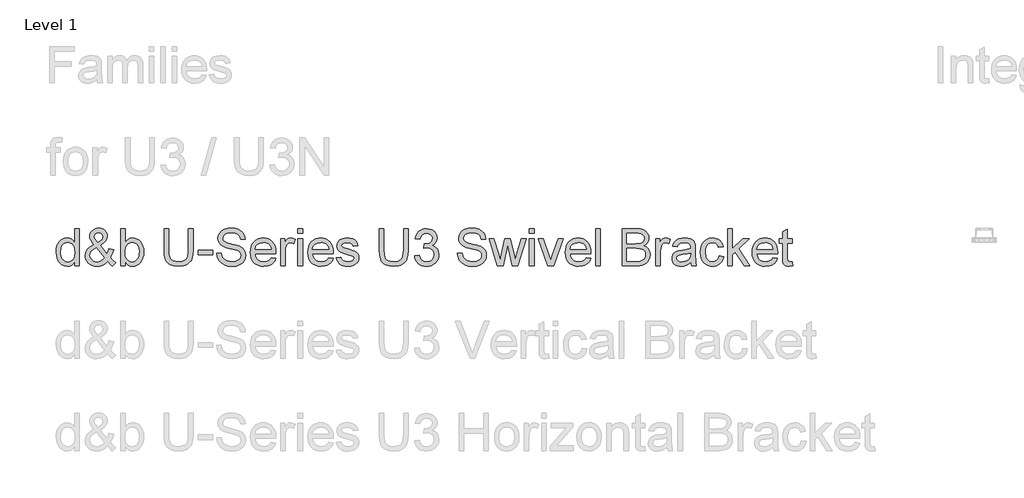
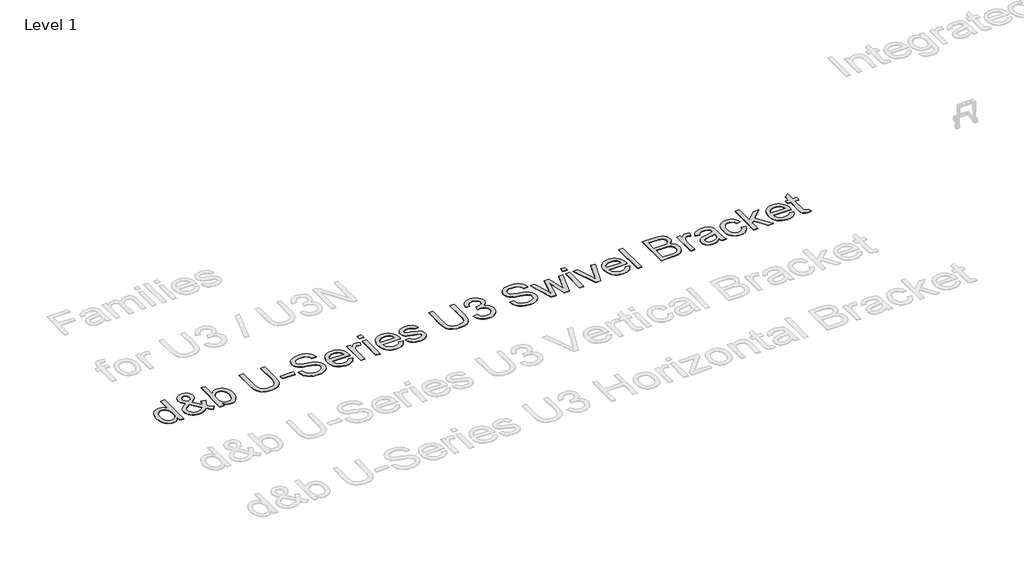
# One storey, part 17 of 29: 1 proxy.
"""IFC4 building model written with IfcOpenShell, lengths in millimetres."""

from ifc_helpers import new_model, si_unit, origin, origin_with_axes, place, context, project, spatial, polyline, outline, extrude, element, save

model = new_model("IFC4")

# Units and contexts
model_context = context("Model", 3, world=origin())
ifc_project = project(units=[si_unit("LENGTHUNIT", "METRE", prefix="MILLI")], contexts=[model_context])

# Site, building, storey
site = spatial("IfcSite", under=ifc_project)
building = spatial("IfcBuilding", under=site)
storey = spatial("IfcBuildingStorey", under=building, Name="Level 1", Elevation=0.0)

# Proxy
placement = place(None, origin())
element("IfcBuildingElementProxy", 1, Name="400mm Arial", ObjectType="400mm Arial", at=placement, inside=storey, context=model_context, shape_type="SweptSolid", body=[
    extrude(outline(polyline([(-20788.4119982, 4164.3636615), (-20788.4119982, 4211.7468625), (-20803.4399777, 4188.2698598), (-20821.6440051, 4171.5005722), (-20843.0240804, 4161.4389996), (-20867.5802036, 4158.0851421), (-20900.051921, 4162.9411844), (-20929.7767862, 4177.5093115), (-20954.9399147, 4200.7717163), (-20973.7264219, 4231.7105921), (-20985.4250694, 4269.0751401), (-20989.3246185, 4311.6145614), (-20985.7316377, 4353.6266853), (-20974.9526952, 4391.5675817), (-20957.0000539, 4423.2790097), (-20931.8859763, 4446.6027282), (-20901.5111863, 4460.950126), (-20867.7764073, 4465.7325919), (-20843.20189, 4462.3112894), (-20821.4723268, 4452.0473817), (-20803.0537016, 4436.3142951), (-20788.4119982, 4416.4854555), (-20788.4119982, 4566.1889021), (-20738.1838431, 4566.1889021), (-20738.1838431, 4164.3636615), (-20788.4119982, 4164.3636615)]), holes=[polyline([(-20939.0964634, 4311.8107652), (-20937.6801177, 4287.4539114), (-20933.4310807, 4266.3773388), (-20926.3493523, 4248.5810472), (-20916.4349325, 4234.0650368), (-20891.7377879, 4214.7512321), (-20877.8625053, 4209.9227809), (-20862.9694159, 4208.3132972), (-20848.0058157, 4209.8492045), (-20834.2133066, 4214.4569265), (-20810.1415614, 4232.8878145), (-20800.6348775, 4246.7968196), (-20793.844389, 4263.9493176), (-20788.4119982, 4307.9847924), (-20793.9424909, 4356.1282828), (-20800.8556067, 4374.663404), (-20810.5339688, 4389.5074425), (-20822.235682, 4400.8811276), (-20835.2188507, 4409.0051883), (-20849.4834751, 4413.8796247), (-20865.0295551, 4415.5044369), (-20880.2169501, 4413.9440041), (-20894.0922327, 4409.2627057), (-20906.6554028, 4401.4605417), (-20917.9064605, 4390.5375121), (-20927.1770868, 4376.2544937), (-20933.7989627, 4358.372363), (-20939.0964634, 4311.8107652)])]), origin_with_axes(), (0.0, 0.0, 1.0), 5.0),
    extrude(outline(polyline([(-20432.4003287, 4214.0032054), (-20457.9313392, 4189.5390527), (-20485.6696416, 4172.0646579), (-20515.664287, 4161.5800211), (-20547.9643262, 4158.0851421), (-20577.2722584, 4160.6725788), (-20603.3918801, 4168.4348889), (-20626.3231911, 4181.3720724), (-20646.0661915, 4199.4841293), (-20658.8991418, 4216.8542908), (-20668.0655348, 4235.2177338), (-20673.5653707, 4254.5744581), (-20675.3986493, 4274.9244638), (-20669.5002746, 4310.118508), (-20651.8051507, 4341.7318341), (-20622.3868538, 4369.7399167), (-20581.3189604, 4394.1182302), (-20603.2324646, 4422.4696693), (-20616.3903773, 4444.9349965), (-20622.975465, 4464.1139112), (-20625.1704942, 4482.6061128), (-20623.4414488, 4500.1602153), (-20618.2543127, 4516.5248327), (-20609.6090858, 4531.699965), (-20597.5057682, 4545.6856122), (-20582.784357, 4557.4026538), (-20566.2848495, 4565.7719692), (-20548.0072457, 4570.7935584), (-20527.9515456, 4572.4674215), (-20508.8032878, 4570.8671348), (-20491.4821772, 4566.0662748), (-20475.9882138, 4558.0648414), (-20462.3213977, 4546.8628346), (-20451.1623105, 4533.4167477), (-20443.1915339, 4518.6830738), (-20438.409068, 4502.6618129), (-20436.8149127, 4485.352965), (-20441.5360649, 4457.3694079), (-20455.6995218, 4431.4950409), (-20479.3052831, 4407.729864), (-20512.353349, 4386.0738773), (-20439.6598668, 4295.5258555), (-20427.2745063, 4321.4002225), (-20417.9793545, 4351.1496132), (-20367.7511994, 4340.2603061), (-20383.2022432, 4293.7354965), (-20403.2640747, 4257.5604336), (-20374.7164319, 4224.2548503), (-20342.6371219, 4196.7372771), (-20380.3082382, 4158.0851421), (-20405.9373505, 4181.5314879), (-20432.4003287, 4214.0032054)]), holes=[polyline([(-20537.7617322, 4417.7607798), (-20511.4949577, 4434.4258341), (-20496.4608468, 4448.908122), (-20489.3975125, 4462.9980024), (-20487.0430678, 4478.4858344), (-20490.1455392, 4496.0338056), (-20499.4529537, 4510.0255842), (-20513.4202068, 4519.1858458), (-20530.5021941, 4522.2392664), (-20547.9520634, 4519.2103713), (-20562.2381476, 4510.123686), (-20571.7662912, 4496.6714677), (-20574.9423391, 4480.5459736), (-20570.6258571, 4462.1518739), (-20557.578309, 4441.6976349), (-20537.7617322, 4417.7607798)]), polyline([(-20466.0492686, 4250.2027937), (-20555.7143735, 4362.1370221), (-20589.9641873, 4340.2848316), (-20610.8966728, 4320.0513218), (-20621.6020389, 4300.7252544), (-20625.1704942, 4281.5953906), (-20620.2899264, 4257.9037901), (-20605.648223, 4233.3292729), (-20594.8692805, 4222.3847835), (-20582.0547244, 4214.5672911), (-20567.2045545, 4209.8767957), (-20550.3187709, 4208.3132972), (-20527.5959264, 4211.2318277), (-20504.1618433, 4219.9874192), (-20482.7388484, 4233.3783238), (-20466.0492686, 4250.2027937)])]), origin_with_axes(), (0.0, 0.0, 1.0), 5.0),
    extrude(outline(polyline([(-20242.1808118, 4164.3636615), (-20292.4089668, 4164.3636615), (-20292.4089668, 4566.1889021), (-20242.1808118, 4566.1889021), (-20242.1808118, 4417.1721686), (-20225.6629102, 4438.4173538), (-20207.011293, 4453.5924861), (-20186.2259603, 4462.6975655), (-20163.306912, 4465.7325919), (-20137.432545, 4462.9980024), (-20112.9806551, 4454.7942339), (-20091.3491937, 4441.6363213), (-20073.9361126, 4424.0392992), (-20060.2876906, 4402.1748459), (-20049.9502065, 4376.2146398), (-20043.4386952, 4347.2378013), (-20041.2681915, 4316.323451), (-20043.5153373, 4280.6511602), (-20050.2567749, 4249.270826), (-20061.4925041, 4222.1824484), (-20077.2225251, 4199.3860274), (-20096.1040685, 4181.3168901), (-20116.7943651, 4168.4103634), (-20139.2934148, 4160.6664474), (-20163.6012176, 4158.0851421), (-20187.274424, 4161.4144742), (-20208.2620918, 4171.4024703), (-20226.5642211, 4188.0491306), (-20242.1808118, 4211.354455), (-20242.1808118, 4164.3636615)]), holes=[polyline([(-20242.1808118, 4313.9690062), (-20238.7472465, 4272.0795097), (-20228.4465506, 4243.7280706), (-20216.2757879, 4228.2341072), (-20202.1307252, 4217.1669905), (-20186.0113625, 4210.5267205), (-20167.9176997, 4208.3132972), (-20152.8958515, 4209.9442407), (-20138.9285984, 4214.8370712), (-20126.0159404, 4222.9917888), (-20114.1578774, 4234.4083934), (-20104.2434577, 4249.0562281), (-20097.1617293, 4266.9046363), (-20092.9126922, 4287.9536178), (-20091.4963465, 4312.2031726), (-20096.9287373, 4358.1638965), (-20103.7192258, 4375.9571224), (-20113.2259097, 4390.2922575), (-20124.6578427, 4401.322586), (-20137.2240785, 4409.201392), (-20150.9246172, 4413.9286757), (-20165.7594586, 4415.5044369), (-20180.7813068, 4413.8734934), (-20194.7485599, 4408.9806628), (-20207.6612179, 4400.8259453), (-20219.5192809, 4389.4093407), (-20229.4337006, 4374.9086587), (-20236.515429, 4357.501709), (-20240.7644661, 4337.1884915), (-20242.1808118, 4313.9690062)])]), origin_with_axes(), (0.0, 0.0, 1.0), 5.0),
    extrude(outline(polyline([(-19557.8221989, 4566.1889021), (-19507.5940438, 4566.1889021), (-19507.5940438, 4334.3741942), (-19511.0030836, 4280.0870744), (-19521.2302031, 4238.2834171), (-19529.4155775, 4221.3301884), (-19540.3355414, 4206.0324288), (-19570.3792376, 4180.4033165), (-19589.5213641, 4170.6391152), (-19611.4348683, 4163.6646857), (-19663.5760097, 4158.0851421), (-19714.576717, 4162.9411844), (-19755.3503048, 4177.5093115), (-19771.9049946, 4188.3097137), (-19785.9090359, 4201.2867511), (-19797.3624287, 4216.4404236), (-19806.2651729, 4233.7707312), (-19817.706303, 4277.3402222), (-19821.520013, 4334.3741942), (-19821.520013, 4566.1889021), (-19771.2918579, 4566.1889021), (-19771.2918579, 4336.1400278), (-19768.8147858, 4291.000907), (-19761.3835695, 4259.5715218), (-19747.9190885, 4237.8051705), (-19727.3422222, 4221.6551509), (-19700.5113621, 4211.6487606), (-19668.2848993, 4208.3132972), (-19640.6017791, 4209.9626348), (-19617.1983529, 4214.9106476), (-19598.0746205, 4223.1573357), (-19583.230582, 4234.702699), (-19572.1144144, 4250.9385577), (-19564.1742947, 4273.2567321), (-19559.4102228, 4301.6572221), (-19557.8221989, 4336.1400278), (-19557.8221989, 4566.1889021)])), origin_with_axes(), (0.0, 0.0, 1.0), 5.0),
    extrude(outline(polyline([(-19451.0873693, 4283.6555298), (-19451.0873693, 4333.8836849), (-19294.1243847, 4333.8836849), (-19294.1243847, 4283.6555298), (-19451.0873693, 4283.6555298)])), origin_with_axes(), (0.0, 0.0, 1.0), 5.0),
    extrude(outline(polyline([(-19250.174749, 4302.4910879), (-19199.946594, 4302.4910879), (-19194.1831094, 4274.6178954), (-19183.7597862, 4252.2138819), (-19167.499402, 4234.4329188), (-19144.2247344, 4220.4288776), (-19115.7751935, 4211.3421923), (-19083.9901891, 4208.3132972), (-19056.006632, 4210.6064283), (-19031.5056911, 4217.4858216), (-19011.6523261, 4228.3751287), (-18997.6114966, 4242.698001), (-18989.2605753, 4259.1423262), (-18986.4769349, 4276.3959918), (-18988.5615995, 4293.2081989), (-18994.8155934, 4307.7395377), (-19007.519785, 4320.137161), (-19028.9550426, 4330.5482214), (-19102.0899832, 4349.7271361), (-19150.0985836, 4362.419065), (-19180.8167302, 4374.4978571), (-19205.8204431, 4391.3959034), (-19223.5400926, 4411.8746678), (-19234.0983058, 4435.4926919), (-19237.6177103, 4461.8085173), (-19233.26444, 4491.2268142), (-19220.2046292, 4518.6585483), (-19198.7816343, 4541.9086904), (-19169.338812, 4558.7822113), (-19133.997615, 4569.0461189), (-19094.8794961, 4572.4674215), (-19052.4994903, 4568.8867034), (-19015.4169852, 4558.1445491), (-18984.956356, 4540.4616879), (-18962.4419779, 4516.0588489), (-18948.1926819, 4486.456611), (-18942.5272992, 4453.1755532), (-18992.7554543, 4453.1755532), (-19001.9770296, 4483.145673), (-19010.3402136, 4495.003736), (-19021.2049952, 4504.7771344), (-19051.2486915, 4517.8737334), (-19092.9174588, 4522.2392664), (-19135.5672448, 4517.9227843), (-19151.8705486, 4512.5271817), (-19164.8261262, 4504.9733381), (-19181.7486979, 4485.9170507), (-19187.3895552, 4463.2800453), (-19183.3919042, 4443.9785033), (-19171.3989511, 4428.4538831), (-19143.047512, 4414.5724691), (-19089.3857917, 4400.3967496), (-19034.0072887, 4386.9322686), (-19000.5055016, 4375.1845702), (-18971.8720197, 4356.9621487), (-18951.8960273, 4334.4722961), (-18940.1605917, 4307.9602669), (-18936.2487798, 4277.671316), (-18940.7492029, 4246.7079147), (-18954.2504721, 4217.5839235), (-18976.2007645, 4192.5188969), (-19006.048257, 4173.7323896), (-19041.941277, 4161.996954), (-19082.0281518, 4158.0851421), (-19131.2385, 4162.3035223), (-19171.7423077, 4174.958663), (-19204.0055586, 4196.0996149), (-19228.4942368, 4225.7754292), (-19244.2150607, 4261.9259666), (-19250.174749, 4302.4910879)])), origin_with_axes(), (0.0, 0.0, 1.0), 5.0),
    extrude(outline(polyline([(-18660.5825381, 4252.2629329), (-18611.3354017, 4245.9844135), (-18618.8861796, 4226.2598072), (-18629.0795766, 4208.8773829), (-18641.9155925, 4193.8371407), (-18657.3942275, 4181.1390805), (-18675.3560659, 4171.0529824), (-18695.6416922, 4163.8486267), (-18743.1843087, 4158.0851421), (-18774.3500451, 4160.5714113), (-18802.1190044, 4168.0302187), (-18826.4911866, 4180.4615645), (-18847.4665916, 4197.8654485), (-18864.3339811, 4219.7574929), (-18876.3821165, 4245.6533197), (-18883.6109977, 4275.5529288), (-18886.0206247, 4309.4563204), (-18883.5864722, 4344.5093432), (-18876.2840146, 4375.4052994), (-18864.1132519, 4402.1441891), (-18847.0741842, 4424.7260122), (-18826.1539614, 4442.6663908), (-18802.3397336, 4455.480947), (-18775.6315007, 4463.1696807), (-18746.0292628, 4465.7325919), (-18717.3804525, 4463.1758121), (-18691.472363, 4455.5054725), (-18668.3049943, 4442.7215731), (-18647.8783465, 4424.8241141), (-18631.2040951, 4402.2913419), (-18619.2939155, 4375.6015031), (-18612.1478077, 4344.7545978), (-18609.7657718, 4309.750626), (-18610.0600774, 4296.2125686), (-18835.7924697, 4296.2125686), (-18832.8831362, 4276.1691312), (-18827.0981918, 4258.6150287), (-18818.4376365, 4243.550261), (-18806.9014703, 4230.9748281), (-18793.1273553, 4221.0604083), (-18777.7529536, 4213.9786799), (-18742.2032901, 4208.3132972), (-18715.4705318, 4210.9375221), (-18692.9561537, 4218.8101968), (-18674.6601558, 4232.4218306), (-18660.5825381, 4252.2629329)]), holes=[polyline([(-18835.7924697, 4346.4407236), (-18659.9939269, 4346.4407236), (-18666.7874811, 4372.9772782), (-18680.1048093, 4391.9599892), (-18693.8022823, 4402.260685), (-18709.3882161, 4409.6183249), (-18726.8626109, 4414.0329089), (-18746.2254666, 4415.5044369), (-18780.0828729, 4410.8078101), (-18808.0786927, 4396.7179296), (-18827.5396502, 4374.7553745), (-18835.7924697, 4346.4407236)])]), origin_with_axes(), (0.0, 0.0, 1.0), 5.0),
    extrude(outline(polyline([(-18559.5376168, 4164.3636615), (-18559.5376168, 4459.4540726), (-18515.5879811, 4459.4540726), (-18515.5879811, 4415.7987425), (-18499.3521223, 4441.1090237), (-18484.3915879, 4456.0205073), (-18469.3820025, 4463.3045708), (-18452.998991, 4465.7325919), (-18427.9830153, 4461.8575683), (-18402.5746321, 4450.2324972), (-18419.3500511, 4405.203741), (-18437.0083869, 4412.9292629), (-18454.6667227, 4415.5044369), (-18469.6640453, 4413.0273648), (-18483.0672127, 4405.5961485), (-18493.8952061, 4393.7748737), (-18501.1670069, 4378.1276262), (-18507.273848, 4350.0704927), (-18509.3094617, 4319.4627107), (-18509.3094617, 4164.3636615), (-18559.5376168, 4164.3636615)])), origin_with_axes(), (0.0, 0.0, 1.0), 5.0),
    extrude(outline(polyline([(-18371.1820352, 4515.960747), (-18371.1820352, 4566.1889021), (-18320.9538802, 4566.1889021), (-18320.9538802, 4515.960747), (-18371.1820352, 4515.960747)])), origin_with_axes(), (0.0, 0.0, 1.0), 5.0),
    extrude(outline(polyline([(-18371.1820352, 4164.3636615), (-18371.1820352, 4459.4540726), (-18320.9538802, 4459.4540726), (-18320.9538802, 4164.3636615), (-18371.1820352, 4164.3636615)])), origin_with_axes(), (0.0, 0.0, 1.0), 5.0),
    extrude(outline(polyline([(-18039.009119, 4252.2629329), (-17989.7619826, 4245.9844135), (-17997.3127606, 4226.2598072), (-18007.5061575, 4208.8773829), (-18020.3421735, 4193.8371407), (-18035.8208084, 4181.1390805), (-18053.7826468, 4171.0529824), (-18074.0682732, 4163.8486267), (-18121.6108897, 4158.0851421), (-18152.7766261, 4160.5714113), (-18180.5455853, 4168.0302187), (-18204.9177675, 4180.4615645), (-18225.8931726, 4197.8654485), (-18242.7605621, 4219.7574929), (-18254.8086974, 4245.6533197), (-18262.0375786, 4275.5529288), (-18264.4472057, 4309.4563204), (-18262.0130532, 4344.5093432), (-18254.7105956, 4375.4052994), (-18242.5398329, 4402.1441891), (-18225.5007651, 4424.7260122), (-18204.5805423, 4442.6663908), (-18180.7663145, 4455.480947), (-18154.0580817, 4463.1696807), (-18124.4558438, 4465.7325919), (-18095.8070334, 4463.1758121), (-18069.8989439, 4455.5054725), (-18046.7315753, 4442.7215731), (-18026.3049275, 4424.8241141), (-18009.630676, 4402.2913419), (-17997.7204965, 4375.6015031), (-17990.5743887, 4344.7545978), (-17988.1923528, 4309.750626), (-17988.4866584, 4296.2125686), (-18214.2190506, 4296.2125686), (-18211.3097172, 4276.1691312), (-18205.5247728, 4258.6150287), (-18196.8642175, 4243.550261), (-18185.3280513, 4230.9748281), (-18171.5539362, 4221.0604083), (-18156.1795345, 4213.9786799), (-18120.629871, 4208.3132972), (-18093.8971127, 4210.9375221), (-18071.3827346, 4218.8101968), (-18053.0867367, 4232.4218306), (-18039.009119, 4252.2629329)]), holes=[polyline([(-18214.2190506, 4346.4407236), (-18038.4205079, 4346.4407236), (-18045.214062, 4372.9772782), (-18058.5313903, 4391.9599892), (-18072.2288632, 4402.260685), (-18087.8147971, 4409.6183249), (-18105.2891918, 4414.0329089), (-18124.6520475, 4415.5044369), (-18158.5094538, 4410.8078101), (-18186.5052736, 4396.7179296), (-18205.9662312, 4374.7553745), (-18214.2190506, 4346.4407236)])]), origin_with_axes(), (0.0, 0.0, 1.0), 5.0),
    extrude(outline(polyline([(-17956.7997559, 4252.2629329), (-17906.5716008, 4258.5414523), (-17898.6498752, 4237.0571437), (-17883.3214587, 4221.2627434), (-17860.4882495, 4211.5506587), (-17830.0521458, 4208.3132972), (-17799.983924, 4211.2808786), (-17778.8429721, 4220.1836229), (-17766.3349842, 4233.0840182), (-17762.1656549, 4248.0445527), (-17766.3595097, 4260.8468461), (-17778.9410739, 4270.6079817), (-17830.640757, 4284.930854), (-17906.2772952, 4309.5053713), (-17925.4194217, 4321.8539436), (-17939.2885729, 4338.2001669), (-17947.7130706, 4357.501709), (-17950.5212365, 4378.7162373), (-17948.2648936, 4398.1771949), (-17941.4958649, 4416.142099), (-17930.827287, 4431.8997111), (-17916.8722966, 4444.7387927), (-17884.9401395, 4459.6012254), (-17864.0567049, 4464.1997503), (-17841.7262678, 4465.7325919), (-17809.0338211, 4463.2677826), (-17780.6088056, 4455.8733545), (-17757.751071, 4444.2728089), (-17741.7604669, 4429.1896471), (-17731.1654655, 4409.5079603), (-17724.4945386, 4384.1118399), (-17774.7226937, 4377.8333206), (-17781.0625268, 4393.6399836), (-17793.6073028, 4405.5470975), (-17812.4796492, 4413.015102), (-17837.8021932, 4415.5044369), (-17866.6441416, 4413.1254666), (-17885.8721072, 4405.9885559), (-17896.6878378, 4395.6878601), (-17900.2930814, 4383.8175343), (-17894.3088676, 4369.2003564), (-17875.5714113, 4358.1148456), (-17832.3084887, 4347.4217423), (-17758.5849369, 4323.7791927), (-17739.1117166, 4312.4729527), (-17724.3473858, 4296.9973835), (-17715.0399714, 4277.303434), (-17711.9374999, 4253.3420534), (-17715.5795316, 4228.5713324), (-17726.5056269, 4205.2721394), (-17744.2988527, 4185.2716215), (-17768.5422762, 4170.3969262), (-17797.825683, 4161.1630881), (-17830.7388588, 4158.0851421), (-17857.7720541, 4159.5689328), (-17881.3839468, 4164.020305), (-17901.574537, 4171.4392585), (-17918.3438246, 4181.8257935), (-17932.0412976, 4195.130859), (-17943.0164438, 4211.3054041), (-17951.2692632, 4230.3494287), (-17956.7997559, 4252.2629329)])), origin_with_axes(), (0.0, 0.0, 1.0), 5.0),
    extrude(outline(polyline([(-17228.4915073, 4566.1889021), (-17178.2633522, 4566.1889021), (-17178.2633522, 4334.3741942), (-17181.672392, 4280.0870744), (-17191.8995115, 4238.2834171), (-17200.0848859, 4221.3301884), (-17211.0048498, 4206.0324288), (-17241.048546, 4180.4033165), (-17260.1906725, 4170.6391152), (-17282.1041767, 4163.6646857), (-17334.2453182, 4158.0851421), (-17385.2460254, 4162.9411844), (-17426.0196132, 4177.5093115), (-17442.574303, 4188.3097137), (-17456.5783443, 4201.2867511), (-17468.0317371, 4216.4404236), (-17476.9344814, 4233.7707312), (-17488.3756114, 4277.3402222), (-17492.1893214, 4334.3741942), (-17492.1893214, 4566.1889021), (-17441.9611663, 4566.1889021), (-17441.9611663, 4336.1400278), (-17439.4840942, 4291.000907), (-17432.0528779, 4259.5715218), (-17418.5883969, 4237.8051705), (-17398.0115307, 4221.6551509), (-17371.1806705, 4211.6487606), (-17338.9542077, 4208.3132972), (-17311.2710876, 4209.9626348), (-17287.8676613, 4214.9106476), (-17268.7439289, 4223.1573357), (-17253.8998904, 4234.702699), (-17242.7837228, 4250.9385577), (-17234.8436031, 4273.2567321), (-17230.0795312, 4301.6572221), (-17228.4915073, 4336.1400278), (-17228.4915073, 4566.1889021)])), origin_with_axes(), (0.0, 0.0, 1.0), 5.0),
    extrude(outline(polyline([(-17109.199639, 4271.098491), (-17058.9714839, 4277.3770104), (-17047.7265576, 4245.8127352), (-17031.2577069, 4224.500105), (-17008.7555916, 4212.3599991), (-16979.4108711, 4208.3132972), (-16944.9771163, 4213.880578), (-16930.7032949, 4220.8396791), (-16918.3915108, 4230.5824206), (-16901.3953626, 4255.5002944), (-16895.7299799, 4285.715669), (-16901.3463117, 4314.3982019), (-16918.1953071, 4337.6606067), (-16943.7017921, 4353.0748623), (-16975.2905927, 4358.2129475), (-17010.5091624, 4352.719243), (-17004.9173561, 4402.9473981), (-16996.8730031, 4402.3587869), (-16966.7802559, 4405.9640305), (-16939.8758193, 4416.7797611), (-16928.8025713, 4424.9590041), (-16920.8931084, 4435.075759), (-16916.1474306, 4447.1300257), (-16914.5655381, 4461.1218043), (-16919.1518003, 4482.8145792), (-16932.9105869, 4500.4116014), (-16953.9043861, 4512.0734606), (-16980.195686, 4515.960747), (-17006.5360369, 4512.0366724), (-17028.0693963, 4500.2644486), (-17043.7902202, 4480.6440755), (-17052.6929645, 4453.1755532), (-17102.9211196, 4459.4540726), (-17096.9675626, 4483.4338473), (-17088.1322634, 4504.5564052), (-17076.4152218, 4522.8217462), (-17061.816438, 4538.2298705), (-17044.7957643, 4550.4619468), (-17025.8130534, 4559.1991442), (-17004.8683051, 4564.4414626), (-16981.9615196, 4566.1889021), (-16950.3849817, 4562.7430741), (-16921.3836177, 4552.40559), (-16896.9317278, 4536.0961549), (-16879.0036119, 4514.7344737), (-16868.0039402, 4490.1231682), (-16864.337383, 4464.0648602), (-16867.8199992, 4439.7846485), (-16878.2678479, 4417.7607798), (-16895.5337762, 4398.998798), (-16919.4706313, 4384.5042474), (-16888.0289835, 4371.8000558), (-16864.7297904, 4350.1685945), (-16850.3088162, 4320.7870858), (-16845.5018248, 4284.8327522), (-16847.9053205, 4259.3507926), (-16855.1158076, 4235.8799214), (-16867.1332861, 4214.4201383), (-16883.9577561, 4194.9714435), (-16904.4549146, 4178.8336866), (-16927.4904588, 4167.3067175), (-16953.0643889, 4160.3905359), (-16981.1767046, 4158.0851421), (-17006.5850878, 4160.0533108), (-17029.737128, 4165.9578168), (-17050.6328253, 4175.7986602), (-17069.2721798, 4189.5758409), (-17084.9010332, 4206.4800186), (-17096.7652275, 4225.7018528), (-17104.8647628, 4247.2413436), (-17109.199639, 4271.098491)])), origin_with_axes(), (0.0, 0.0, 1.0), 5.0),
    extrude(outline(polyline([(-16644.5892045, 4302.4910879), (-16594.3610495, 4302.4910879), (-16588.5975649, 4274.6178954), (-16578.1742417, 4252.2138819), (-16561.9138575, 4234.4329188), (-16538.6391899, 4220.4288776), (-16510.189649, 4211.3421923), (-16478.4046446, 4208.3132972), (-16450.4210875, 4210.6064283), (-16425.9201466, 4217.4858216), (-16406.0667816, 4228.3751287), (-16392.0259521, 4242.698001), (-16383.6750308, 4259.1423262), (-16380.8913904, 4276.3959918), (-16382.976055, 4293.2081989), (-16389.2300489, 4307.7395377), (-16401.9342405, 4320.137161), (-16423.3694981, 4330.5482214), (-16496.5044387, 4349.7271361), (-16544.5130391, 4362.419065), (-16575.2311857, 4374.4978571), (-16600.2348986, 4391.3959034), (-16617.9545481, 4411.8746678), (-16628.5127613, 4435.4926919), (-16632.0321658, 4461.8085173), (-16627.6788955, 4491.2268142), (-16614.6190847, 4518.6585483), (-16593.1960898, 4541.9086904), (-16563.7532675, 4558.7822113), (-16528.4120705, 4569.0461189), (-16489.2939516, 4572.4674215), (-16446.9139458, 4568.8867034), (-16409.8314407, 4558.1445491), (-16379.3708115, 4540.4616879), (-16356.8564334, 4516.0588489), (-16342.6071374, 4486.456611), (-16336.9417547, 4453.1755532), (-16387.1699098, 4453.1755532), (-16396.3914851, 4483.145673), (-16404.7546691, 4495.003736), (-16415.6194507, 4504.7771344), (-16445.663147, 4517.8737334), (-16487.3319143, 4522.2392664), (-16529.9817003, 4517.9227843), (-16546.2850041, 4512.5271817), (-16559.2405816, 4504.9733381), (-16576.1631534, 4485.9170507), (-16581.8040107, 4463.2800453), (-16577.8063597, 4443.9785033), (-16565.8134066, 4428.4538831), (-16537.4619675, 4414.5724691), (-16483.8002472, 4400.3967496), (-16428.4217442, 4386.9322686), (-16394.9199571, 4375.1845702), (-16366.2864752, 4356.9621487), (-16346.3104828, 4334.4722961), (-16334.5750472, 4307.9602669), (-16330.6632353, 4277.671316), (-16335.1636584, 4246.7079147), (-16348.6649276, 4217.5839235), (-16370.61522, 4192.5188969), (-16400.4627125, 4173.7323896), (-16436.3557325, 4161.996954), (-16476.4426073, 4158.0851421), (-16525.6529555, 4162.3035223), (-16566.1567632, 4174.958663), (-16598.4200141, 4196.0996149), (-16622.9086923, 4225.7754292), (-16638.6295162, 4261.9259666), (-16644.5892045, 4302.4910879)])), origin_with_axes(), (0.0, 0.0, 1.0), 5.0),
    extrude(outline(polyline([(-16212.2542838, 4164.3636615), (-16302.4098981, 4459.4540726), (-16250.3178076, 4459.4540726), (-16199.3048376, 4287.2852988), (-16184.0990484, 4225.7754292), (-16171.6401115, 4285.0289559), (-16131.1240411, 4459.4540726), (-16071.478107, 4459.4540726), (-16030.9620366, 4285.5194652), (-16019.8765258, 4231.8577449), (-16003.9840236, 4288.4625212), (-15952.9710536, 4459.4540726), (-15900.5846575, 4459.4540726), (-15991.0345774, 4164.3636615), (-16051.6615302, 4164.3636615), (-16090.3136651, 4337.415352), (-16101.4972778, 4391.371378), (-16151.2349235, 4164.3636615), (-16212.2542838, 4164.3636615)])), origin_with_axes(), (0.0, 0.0, 1.0), 5.0),
    extrude(outline(polyline([(-15866.0528009, 4515.960747), (-15866.0528009, 4566.1889021), (-15815.8246458, 4566.1889021), (-15815.8246458, 4515.960747), (-15866.0528009, 4515.960747)])), origin_with_axes(), (0.0, 0.0, 1.0), 5.0),
    extrude(outline(polyline([(-15866.0528009, 4164.3636615), (-15866.0528009, 4459.4540726), (-15815.8246458, 4459.4540726), (-15815.8246458, 4164.3636615), (-15866.0528009, 4164.3636615)])), origin_with_axes(), (0.0, 0.0, 1.0), 5.0),
    extrude(outline(polyline([(-15667.8870328, 4164.3636615), (-15771.8750101, 4459.4540726), (-15718.8019009, 4459.4540726), (-15655.8205034, 4282.6745111), (-15636.8868433, 4223.2247807), (-15618.3455908, 4279.3390477), (-15555.0698876, 4459.4540726), (-15501.8986766, 4459.4540726), (-15604.4151259, 4164.3636615), (-15667.8870328, 4164.3636615)])), origin_with_axes(), (0.0, 0.0, 1.0), 5.0),
    extrude(outline(polyline([(-15251.3465124, 4252.2629329), (-15202.099376, 4245.9844135), (-15209.6501539, 4226.2598072), (-15219.8435509, 4208.8773829), (-15232.6795668, 4193.8371407), (-15248.1582018, 4181.1390805), (-15266.1200402, 4171.0529824), (-15286.4056665, 4163.8486267), (-15333.948283, 4158.0851421), (-15365.1140194, 4160.5714113), (-15392.8829787, 4168.0302187), (-15417.2551609, 4180.4615645), (-15438.2305659, 4197.8654485), (-15455.0979554, 4219.7574929), (-15467.1460908, 4245.6533197), (-15474.374972, 4275.5529288), (-15476.784599, 4309.4563204), (-15474.3504465, 4344.5093432), (-15467.0479889, 4375.4052994), (-15454.8772262, 4402.1441891), (-15437.8381585, 4424.7260122), (-15416.9179357, 4442.6663908), (-15393.1037079, 4455.480947), (-15366.395475, 4463.1696807), (-15336.7932371, 4465.7325919), (-15308.1444268, 4463.1758121), (-15282.2363373, 4455.5054725), (-15259.0689686, 4442.7215731), (-15238.6423208, 4424.8241141), (-15221.9680694, 4402.2913419), (-15210.0578898, 4375.6015031), (-15202.911782, 4344.7545978), (-15200.5297461, 4309.750626), (-15200.8240517, 4296.2125686), (-15426.556444, 4296.2125686), (-15423.6471105, 4276.1691312), (-15417.8621661, 4258.6150287), (-15409.2016108, 4243.550261), (-15397.6654446, 4230.9748281), (-15383.8913296, 4221.0604083), (-15368.5169279, 4213.9786799), (-15332.9672644, 4208.3132972), (-15306.2345061, 4210.9375221), (-15283.720128, 4218.8101968), (-15265.4241301, 4232.4218306), (-15251.3465124, 4252.2629329)]), holes=[polyline([(-15426.556444, 4346.4407236), (-15250.7579012, 4346.4407236), (-15257.5514554, 4372.9772782), (-15270.8687836, 4391.9599892), (-15284.5662566, 4402.260685), (-15300.1521904, 4409.6183249), (-15317.6265852, 4414.0329089), (-15336.9894409, 4415.5044369), (-15370.8468472, 4410.8078101), (-15398.842667, 4396.7179296), (-15418.3036245, 4374.7553745), (-15426.556444, 4346.4407236)])]), origin_with_axes(), (0.0, 0.0, 1.0), 5.0),
    extrude(outline(polyline([(-15150.3015911, 4164.3636615), (-15150.3015911, 4566.1889021), (-15100.073436, 4566.1889021), (-15100.073436, 4164.3636615), (-15150.3015911, 4164.3636615)])), origin_with_axes(), (0.0, 0.0, 1.0), 5.0),
    extrude(outline(polyline([(-14861.4896994, 4164.3636615), (-14861.4896994, 4566.1889021), (-14708.1564838, 4566.1889021), (-14665.9849444, 4563.2335834), (-14633.0595058, 4554.3676273), (-14607.822801, 4539.3703046), (-14588.7174627, 4518.0208862), (-14576.6877214, 4492.9068086), (-14572.6778077, 4466.6155087), (-14576.0500593, 4442.4211362), (-14586.1668142, 4419.6737661), (-14603.1016487, 4399.7713502), (-14626.9281392, 4384.1118399), (-14598.4663356, 4369.2494073), (-14577.4357482, 4346.6369274), (-14564.4495137, 4317.7704535), (-14560.1207689, 4284.1460391), (-14563.0760876, 4256.1256938), (-14571.9420437, 4230.1409622), (-14585.1735328, 4208.0435171), (-14601.2254505, 4191.685031), (-14620.8826118, 4179.8392308), (-14644.9298315, 4171.279843), (-14674.1519247, 4166.0927069), (-14709.3337062, 4164.3636615), (-14861.4896994, 4164.3636615)]), holes=[polyline([(-14811.2615443, 4402.9473981), (-14719.5363002, 4402.9473981), (-14665.9726817, 4407.2638802), (-14647.2229626, 4414.7073592), (-14633.7462189, 4425.8541837), (-14625.6160268, 4440.5326753), (-14622.9059628, 4458.5711558), (-14625.4320858, 4476.0823387), (-14633.0104549, 4491.3371788), (-14645.2977135, 4503.2442927), (-14661.9505052, 4510.7122972), (-14687.5060411, 4514.6486346), (-14726.5015326, 4515.960747), (-14811.2615443, 4515.960747), (-14811.2615443, 4402.9473981)]), polyline([(-14811.2615443, 4214.5918166), (-14708.2545856, 4214.5918166), (-14670.9758768, 4216.5538539), (-14639.4361271, 4227.4922119), (-14627.860107, 4236.9222537), (-14618.5404298, 4249.8103862), (-14612.3968004, 4265.5802611), (-14610.348924, 4283.6555298), (-14612.7524197, 4304.649329), (-14619.9629068, 4322.7000722), (-14632.5567338, 4336.8144781), (-14651.1102491, 4345.9992652), (-14677.3892863, 4351.0392486), (-14713.1596789, 4352.719243), (-14811.2615443, 4352.719243), (-14811.2615443, 4214.5918166)])]), origin_with_axes(), (0.0, 0.0, 1.0), 5.0),
    extrude(outline(polyline([(-14497.3355751, 4164.3636615), (-14497.3355751, 4459.4540726), (-14453.3859394, 4459.4540726), (-14453.3859394, 4415.7987425), (-14437.1500807, 4441.1090237), (-14422.1895462, 4456.0205073), (-14407.1799608, 4463.3045708), (-14390.7969493, 4465.7325919), (-14365.7809736, 4461.8575683), (-14340.3725905, 4450.2324972), (-14357.1480095, 4405.203741), (-14374.8063452, 4412.9292629), (-14392.464681, 4415.5044369), (-14407.4620037, 4413.0273648), (-14420.865171, 4405.5961485), (-14431.6931644, 4393.7748737), (-14438.9649652, 4378.1276262), (-14445.0718063, 4350.0704927), (-14447.10742, 4319.4627107), (-14447.10742, 4164.3636615), (-14497.3355751, 4164.3636615)])), origin_with_axes(), (0.0, 0.0, 1.0), 5.0),
    extrude(outline(polyline([(-14120.624412, 4202.0347778), (-14144.6225808, 4181.4579115), (-14169.3319882, 4167.9934305), (-14195.3167198, 4160.5622142), (-14223.1408613, 4158.0851421), (-14245.505021, 4159.5750642), (-14265.116197, 4164.0448304), (-14281.9743894, 4171.4944408), (-14296.0795983, 4181.9238954), (-14307.2172257, 4194.6710065), (-14315.1726738, 4209.0735866), (-14319.9459427, 4225.1316357), (-14321.5370323, 4242.8451538), (-14319.1335366, 4263.6672747), (-14311.9230495, 4282.5764093), (-14300.8007505, 4298.7632171), (-14286.6618192, 4311.4183577), (-14270.0458157, 4320.9832896), (-14251.4923004, 4327.8994711), (-14208.0331741, 4335.4533147), (-14156.6768475, 4343.3995658), (-14120.9187176, 4352.719243), (-14120.624412, 4363.9028557), (-14124.0825028, 4386.3191319), (-14134.456775, 4400.9853608), (-14157.6578662, 4411.8746678), (-14189.9824308, 4415.5044369), (-14219.9034998, 4413.0886784), (-14240.7991971, 4405.8414031), (-14255.0484931, 4392.4382358), (-14265.0303579, 4371.5548012), (-14315.2585129, 4377.8333206), (-14306.5397096, 4405.3018429), (-14293.5289498, 4426.8842532), (-14275.0122227, 4443.3898921), (-14249.7755178, 4455.6280998), (-14218.9102184, 4463.2064689), (-14183.5077077, 4465.7325919), (-14149.5521996, 4463.5007745), (-14122.6355003, 4456.8053222), (-14102.3406769, 4446.7376183), (-14088.2507964, 4434.389046), (-14078.9065938, 4419.1219432), (-14072.8488036, 4400.2986477), (-14070.3962569, 4356.349012), (-14070.3962569, 4293.8581238), (-14067.8456084, 4206.5965145), (-14057.8392182, 4164.3636615), (-14108.0673733, 4164.3636615), (-14116.1117262, 4181.8257935), (-14120.624412, 4202.0347778)]), holes=[polyline([(-14120.624412, 4302.4910879), (-14154.3714537, 4294.1279039), (-14201.6565528, 4287.0890951), (-14244.8704245, 4278.9466403), (-14256.1153508, 4273.3793594), (-14264.4417467, 4265.7028884), (-14269.5920946, 4256.5058385), (-14271.3088772, 4246.3768209), (-14267.5687436, 4231.4408119), (-14256.3483428, 4219.2026042), (-14237.8929293, 4211.0356239), (-14212.447758, 4208.3132972), (-14185.469745, 4211.3176668), (-14161.6309917, 4220.3307757), (-14142.3049243, 4233.6113157), (-14128.8649687, 4249.4179788), (-14122.9052804, 4265.7028884), (-14120.9187176, 4288.2663175), (-14120.624412, 4302.4910879)])]), origin_with_axes(), (0.0, 0.0, 1.0), 5.0),
    extrude(outline(polyline([(-13812.9769622, 4271.098491), (-13762.7488071, 4264.8199716), (-13768.2118547, 4241.1191741), (-13776.7528484, 4220.1468347), (-13788.3717881, 4201.9029534), (-13803.0686738, 4186.3875303), (-13820.2242375, 4174.0052354), (-13839.2192112, 4165.1607391), (-13860.0535948, 4159.8540414), (-13882.7273885, 4158.0851421), (-13910.8979523, 4160.5530172), (-13936.1561169, 4167.9566423), (-13958.5018824, 4180.2960176), (-13977.9352488, 4197.5711429), (-13993.6652698, 4219.457056), (-14004.9009991, 4245.6287942), (-14011.6424366, 4276.0863577), (-14013.8895825, 4310.8297465), (-14010.051347, 4355.5274089), (-13998.5366406, 4394.265383), (-13979.1615221, 4425.5476153), (-13951.7420508, 4447.8780524), (-13918.9392395, 4461.2689571), (-13883.4141015, 4465.7325919), (-13861.1296497, 4464.1997503), (-13840.972782, 4459.6012254), (-13822.9434986, 4451.9370171), (-13807.0417993, 4441.2071256), (-13793.5374644, 4427.6568054), (-13782.700274, 4411.5313113), (-13774.530228, 4392.8306432), (-13769.0273265, 4371.5548012), (-13819.2554816, 4365.2762818), (-13828.3666923, 4387.189786), (-13842.5546746, 4402.8983472), (-13861.0346135, 4412.3529144), (-13883.0216941, 4415.5044369), (-13900.088353, 4413.9532011), (-13915.4811488, 4409.2994939), (-13929.2000815, 4401.5433151), (-13941.2451512, 4390.6846649), (-13951.052272, 4376.4721572), (-13958.0573584, 4358.6544059), (-13962.2604101, 4337.231411), (-13963.6614274, 4312.2031726), (-13958.1799857, 4265.12654), (-13951.3281835, 4247.189227), (-13941.7356605, 4232.9859163), (-13929.9297141, 4222.1916454), (-13916.437642, 4214.481452), (-13901.259444, 4209.8553359), (-13884.3951202, 4208.3132972), (-13858.3858631, 4212.1637954), (-13837.0609701, 4223.71529), (-13821.5486127, 4243.2620867), (-13812.9769622, 4271.098491)])), origin_with_axes(), (0.0, 0.0, 1.0), 5.0),
    extrude(outline(polyline([(-13718.7991714, 4164.3636615), (-13718.7991714, 4566.1889021), (-13668.5710163, 4566.1889021), (-13668.5710163, 4350.2666964), (-13555.9500749, 4459.4540726), (-13486.4939542, 4459.4540726), (-13600.5864236, 4348.8932703), (-13480.2154348, 4164.3636615), (-13538.8803503, 4164.3636615), (-13636.5898082, 4313.9690062), (-13668.5710163, 4282.8707149), (-13668.5710163, 4164.3636615), (-13718.7991714, 4164.3636615)])), origin_with_axes(), (0.0, 0.0, 1.0), 5.0),
    extrude(outline(polyline([(-13229.6632706, 4252.2629329), (-13180.4161342, 4245.9844135), (-13187.9669122, 4226.2598072), (-13198.1603091, 4208.8773829), (-13210.9963251, 4193.8371407), (-13226.47496, 4181.1390805), (-13244.4367984, 4171.0529824), (-13264.7224248, 4163.8486267), (-13312.2650413, 4158.0851421), (-13343.4307776, 4160.5714113), (-13371.1997369, 4168.0302187), (-13395.5719191, 4180.4615645), (-13416.5473242, 4197.8654485), (-13433.4147137, 4219.7574929), (-13445.462849, 4245.6533197), (-13452.6917302, 4275.5529288), (-13455.1013573, 4309.4563204), (-13452.6672047, 4344.5093432), (-13445.3647471, 4375.4052994), (-13433.1939845, 4402.1441891), (-13416.1549167, 4424.7260122), (-13395.2346939, 4442.6663908), (-13371.4204661, 4455.480947), (-13344.7122333, 4463.1696807), (-13315.1099954, 4465.7325919), (-13286.461185, 4463.1758121), (-13260.5530955, 4455.5054725), (-13237.3857269, 4442.7215731), (-13216.9590791, 4424.8241141), (-13200.2848276, 4402.2913419), (-13188.374648, 4375.6015031), (-13181.2285403, 4344.7545978), (-13178.8465044, 4309.750626), (-13179.14081, 4296.2125686), (-13404.8732022, 4296.2125686), (-13401.9638688, 4276.1691312), (-13396.1789244, 4258.6150287), (-13387.5183691, 4243.550261), (-13375.9822029, 4230.9748281), (-13362.2080878, 4221.0604083), (-13346.8336861, 4213.9786799), (-13311.2840226, 4208.3132972), (-13284.5512643, 4210.9375221), (-13262.0368862, 4218.8101968), (-13243.7408883, 4232.4218306), (-13229.6632706, 4252.2629329)]), holes=[polyline([(-13404.8732022, 4346.4407236), (-13229.0746594, 4346.4407236), (-13235.8682136, 4372.9772782), (-13249.1855418, 4391.9599892), (-13262.8830148, 4402.260685), (-13278.4689487, 4409.6183249), (-13295.9433434, 4414.0329089), (-13315.3061991, 4415.5044369), (-13349.1636054, 4410.8078101), (-13377.1594252, 4396.7179296), (-13396.6203828, 4374.7553745), (-13404.8732022, 4346.4407236)])]), origin_with_axes(), (0.0, 0.0, 1.0), 5.0),
    extrude(outline(polyline([(-13021.8835198, 4206.253158), (-13015.6050004, 4162.8921335), (-13053.1780148, 4158.0851421), (-13077.2865482, 4160.1698067), (-13095.2637151, 4166.4238007), (-13107.9679066, 4176.0623089), (-13116.2575143, 4188.3005166), (-13120.819251, 4209.3188413), (-13122.3398299, 4245.2977004), (-13122.3398299, 4409.2259175), (-13160.0109462, 4409.2259175), (-13160.0109462, 4459.4540726), (-13122.3398299, 4459.4540726), (-13122.3398299, 4531.1665361), (-13072.1116748, 4560.6951976), (-13072.1116748, 4459.4540726), (-13021.8835198, 4459.4540726), (-13021.8835198, 4409.2259175), (-13072.1116748, 4409.2259175), (-13072.1116748, 4246.7692284), (-13069.4629245, 4220.8703359), (-13060.8790112, 4211.6978115), (-13043.7602357, 4208.3132972), (-13021.8835198, 4206.253158)])), origin_with_axes(), (0.0, 0.0, 1.0), 5.0),
])

save(model, "model.ifc")
